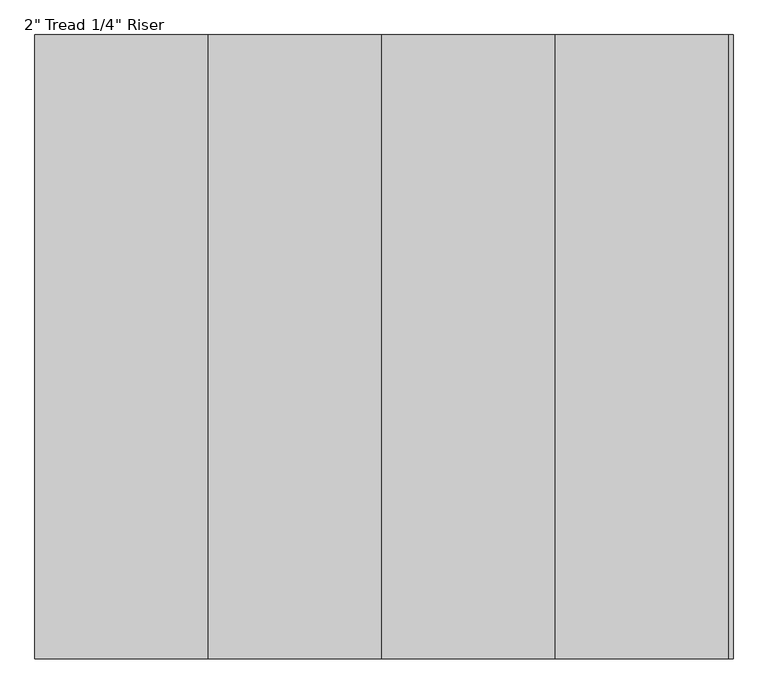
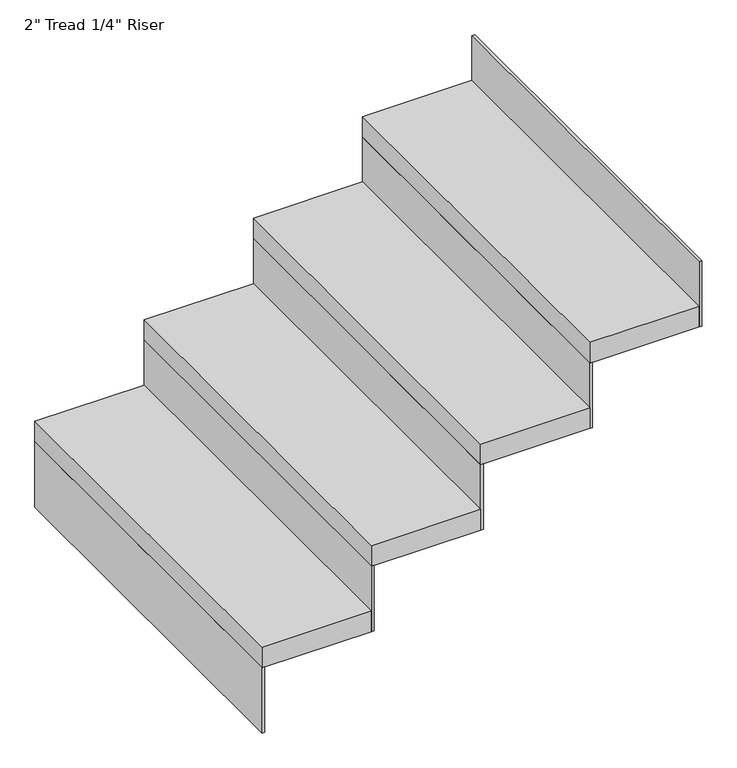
"""IFC4 building model written with IfcOpenShell, lengths in millimetres: stair flight geometry."""

from ifc_helpers import new_model, si_unit, frame, origin, place, context, project, spatial, polyline, outline, extrude, source, transform, mapped, element, save


def stair_flight_93be44c5(model_context):
    return source(origin(), model_context, "Body", "SweptSolid", [
        extrude(outline(polyline([(89421.9147213, -35524.5173894), (89415.5647213, -35524.5173894), (89415.5647213, -34610.1173894), (89421.9147213, -34610.1173894), (89421.9147213, -35524.5173894)])), frame((0.0, 0.0, 2195.0947368), z_axis=(0.0, 0.0, 1.0), x_axis=(1.0, 0.0, 0.0)), (0.0, 0.0, 1.0), 160.4210526),
        extrude(outline(polyline([(89669.5647213, -34610.1173894), (89669.5647213, -35524.5173894), (89415.5647213, -35524.5173894), (89415.5647213, -34610.1173894), (89669.5647213, -34610.1173894)])), frame((0.0, 0.0, 2355.5157895), z_axis=(0.0, 0.0, 1.0), x_axis=(1.0, 0.0, 0.0)), (0.0, 0.0, 1.0), 50.8),
        extrude(outline(polyline([(89675.9147213, -35524.5173894), (89669.5647213, -35524.5173894), (89669.5647213, -34610.1173894), (89675.9147213, -34610.1173894), (89675.9147213, -35524.5173894)])), frame((0.0, 0.0, 2355.5157895), z_axis=(0.0, 0.0, 1.0), x_axis=(1.0, 0.0, 0.0)), (0.0, 0.0, 1.0), 160.4210526),
        extrude(outline(polyline([(89923.5647213, -34610.1173894), (89923.5647213, -35524.5173894), (89669.5647213, -35524.5173894), (89669.5647213, -34610.1173894), (89923.5647213, -34610.1173894)])), frame((0.0, 0.0, 2515.9368421), z_axis=(0.0, 0.0, 1.0), x_axis=(1.0, 0.0, 0.0)), (0.0, 0.0, 1.0), 50.8),
        extrude(outline(polyline([(89929.9147213, -35524.5173894), (89923.5647213, -35524.5173894), (89923.5647213, -34610.1173894), (89929.9147213, -34610.1173894), (89929.9147213, -35524.5173894)])), frame((0.0, 0.0, 2515.9368421), z_axis=(0.0, 0.0, 1.0), x_axis=(1.0, 0.0, 0.0)), (0.0, 0.0, 1.0), 160.4210526),
        extrude(outline(polyline([(90177.5647213, -34610.1173894), (90177.5647213, -35524.5173894), (89923.5647213, -35524.5173894), (89923.5647213, -34610.1173894), (90177.5647213, -34610.1173894)])), frame((0.0, 0.0, 2676.3578947), z_axis=(0.0, 0.0, 1.0), x_axis=(1.0, 0.0, 0.0)), (0.0, 0.0, 1.0), 50.8),
        extrude(outline(polyline([(90183.9147213, -35524.5173894), (90177.5647213, -35524.5173894), (90177.5647213, -34610.1173894), (90183.9147213, -34610.1173894), (90183.9147213, -35524.5173894)])), frame((0.0, 0.0, 2676.3578947), z_axis=(0.0, 0.0, 1.0), x_axis=(1.0, 0.0, 0.0)), (0.0, 0.0, 1.0), 160.4210526),
        extrude(outline(polyline([(90437.9147213, -35524.5173894), (90431.5647213, -35524.5173894), (90431.5647213, -34610.1173894), (90437.9147213, -34610.1173894), (90437.9147213, -35524.5173894)])), frame((0.0, 0.0, 2836.7789474), z_axis=(0.0, 0.0, 1.0), x_axis=(1.0, 0.0, 0.0)), (0.0, 0.0, 1.0), 160.4210526),
        extrude(outline(polyline([(90431.5647213, -34610.1173894), (90431.5647213, -35524.5173894), (90177.5647213, -35524.5173894), (90177.5647213, -34610.1173894), (90431.5647213, -34610.1173894)])), frame((0.0, 0.0, 2836.7789474), z_axis=(0.0, 0.0, 1.0), x_axis=(1.0, 0.0, 0.0)), (0.0, 0.0, 1.0), 50.8),
    ])


if __name__ == "__main__":
    model = new_model("IFC4")
    model_context = context("Model", 3, world=origin())
    ifc_project = project(units=[si_unit("LENGTHUNIT", "METRE", prefix="MILLI")], contexts=[model_context])
    site = spatial("IfcSite", under=ifc_project)
    building = spatial("IfcBuilding", under=site)
    placement = place(None, origin())
    stair_flight_shape = stair_flight_93be44c5(model_context)
    element("IfcStairFlight", 1, ObjectType="2\" Tread 1/4\" Riser", at=placement, inside=building, context=model_context, shape_type="MappedRepresentation", body=[
        mapped(stair_flight_shape, transform((0.0, 0.0, 0.0), x_axis=(1.0, 0.0, 0.0), y_axis=(0.0, 1.0, 0.0), z_axis=(0.0, 0.0, 1.0))),
    ])
    save(model, "model.ifc")
